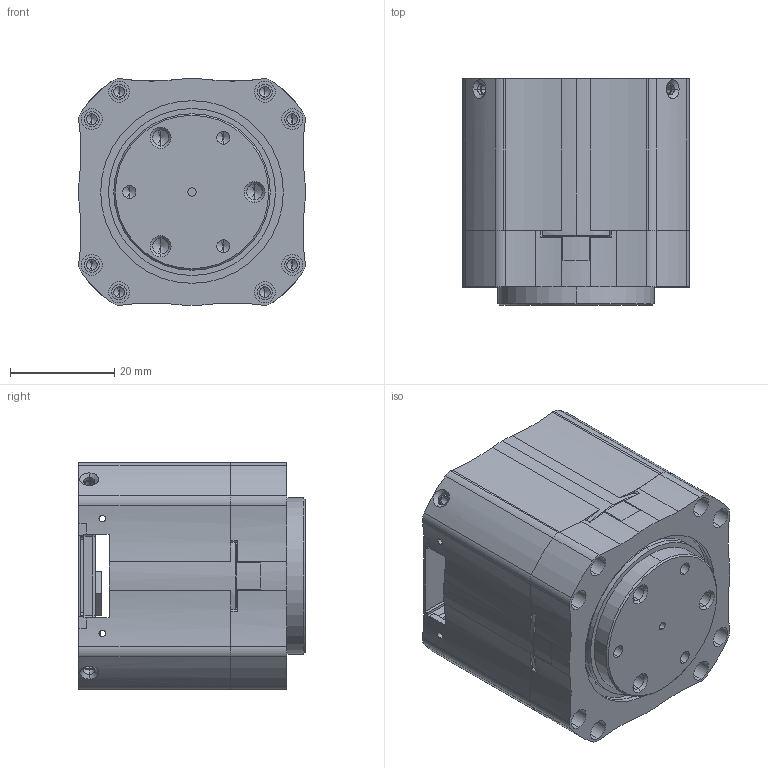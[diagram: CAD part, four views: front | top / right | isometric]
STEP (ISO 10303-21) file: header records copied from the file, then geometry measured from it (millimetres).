
FILE_DESCRIPTION (( 'STEP AP203' ), '1' );
FILE_NAME ('4438潠眢耀倰.STEP', '2025-06-06T02:50:10', ( '' ), ( '' ), 'SwSTEP 2.0', 'SolidWorks 2024', '' );
FILE_SCHEMA (( 'CONFIG_CONTROL_DESIGN' ));
Length unit declared in the file: millimetre
Products named in the file (7): 303742.0; 4438外壳03192.0; 4438-正装轴承座09102.0; 4438简易模型; 4438-电机盖-2.0; 4438-输出盘-2.0; 2内齿44382.0
Assembly tree (6 placements, depth 2):
  4438简易模型
    4438外壳03192.0
    4438-正装轴承座09102.0
    4438-输出盘-2.0
    2内齿44382.0
    303742.0
    4438-电机盖-2.0
Bounding box: 43.5 x 43.4 x 43.5 mm (x, y, z)
Volume: 30072.8 mm3; surface area: 31973.1 mm2
Topology: 6 solids, 6 shells, 1182 faces, 3302 edges, 2130 vertices
Faces by surface type: cylinder 648, bspline 236, plane 191, cone 107
Entity records: 43607 total; most frequent: CARTESIAN_POINT 13184, ORIENTED_EDGE 6476, DIRECTION 6003, EDGE_CURVE 3238, AXIS2_PLACEMENT_3D 2333, VERTEX_POINT 2130, CIRCLE 1378, LINE 1337
